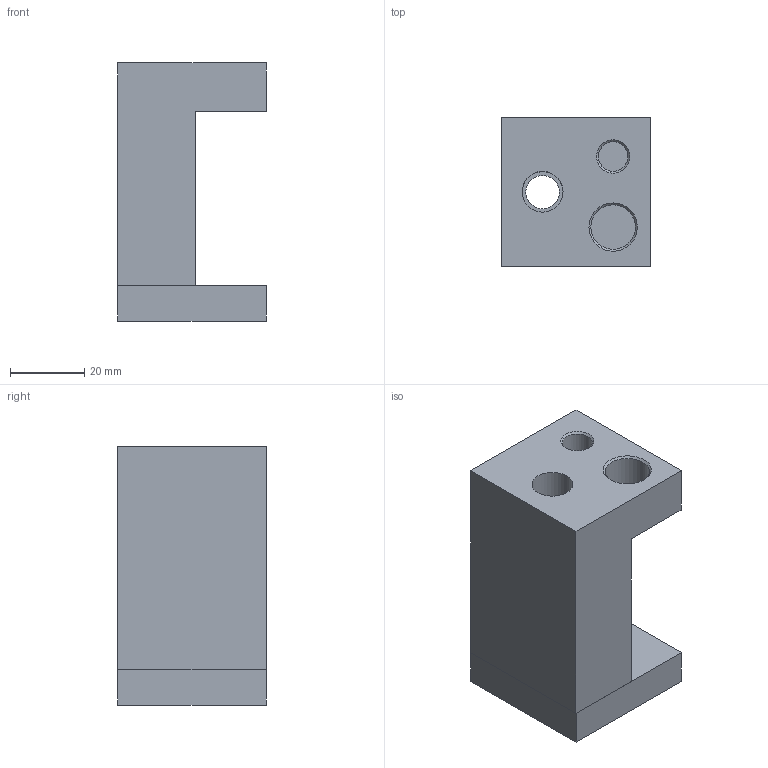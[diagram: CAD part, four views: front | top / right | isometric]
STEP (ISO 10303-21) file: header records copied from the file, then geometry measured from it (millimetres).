
FILE_DESCRIPTION(/* description */ ('','CAx-IF Rec.Pracs.---Representation and Presentation of Product Manufacturing Information (PMI)---3.8---2014-02-18'),/* implementation_level */ '2;1');
FILE_NAME(/* name */ 'E:\Users\CAD5\sito AP\scarica_file\3d\08.56-F.stp',/* time_stamp */ '2016-09-09T14:46:40+02:00',/* author */ ('CAD5'),/* organization */ (''),/* preprocessor_version */ 'ST-DEVELOPER v16.1',/* originating_system */ 'Autodesk Inventor 2016',/* authorisation */ '14639,4 mm^3');
FILE_SCHEMA (('AP242_MANAGED_MODEL_BASED_3D_ENGINEERING_MIM_LF { 1 0 10303 442 1 1 4 }'));
Length unit declared in the file: millimetre
Products named in the file (4): 08.60; 08.65; UNI 5931 - M 5 x  12 - 0,8 - 9,6; 08.56-F
Assembly tree (4 placements, depth 2):
  08.56-F
    08.60
    08.65
    UNI 5931 - M 5 x  12 - 0,8 - 9,6  x2
Bounding box: 40 x 40 x 69.5 mm (x, y, z)
Volume: 66489.4 mm3; surface area: 19932.5 mm2
Topology: 4 solids, 4 shells, 60 faces, 136 edges, 88 vertices
Faces by surface type: plane 34, cylinder 14, cone 8, torus 4
Full cylindrical faces by diameter (mm): 4.134 x2, 5 x2, 5.5 x2, 8 x1, 8.5 x2, 9 x1, 10 x2, 11 x1, 12 x1
Entity records: 1224 total; most frequent: DIRECTION 206, CARTESIAN_POINT 203, ORIENTED_EDGE 154, AXIS2_PLACEMENT_3D 82, EDGE_LOOP 80, EDGE_CURVE 77, VERTEX_POINT 61, FACE_OUTER_BOUND 45
